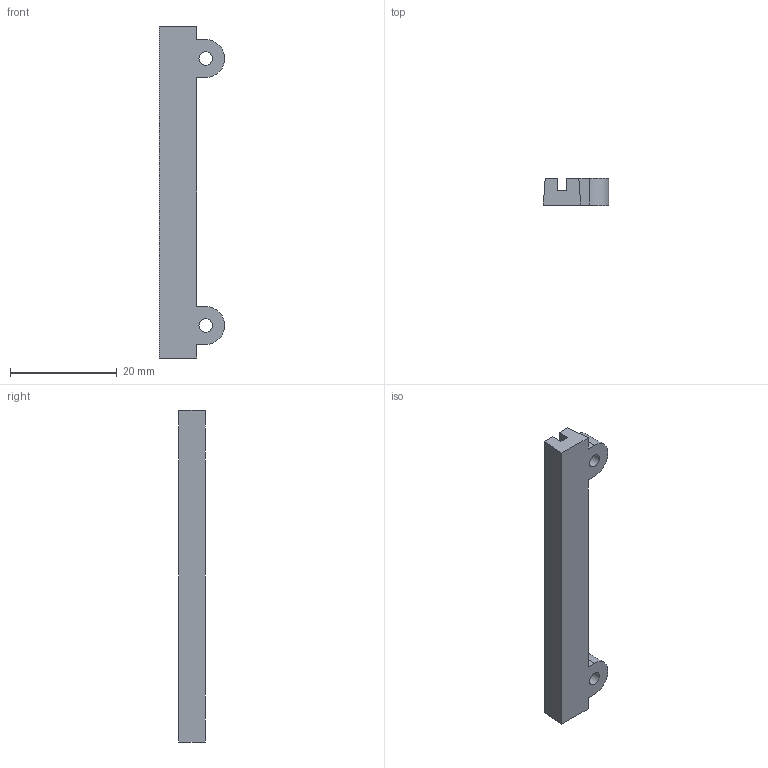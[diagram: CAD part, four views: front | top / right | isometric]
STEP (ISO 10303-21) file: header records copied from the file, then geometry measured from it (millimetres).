
FILE_DESCRIPTION(/* description */ ('Führungsschiene für Leiterplatte','CAx-IF Rec.Pracs.---Representation and Presentation of Product Manufacturing Information (PMI)---4.0---2014-10-13'),/* implementation_level */ '2;1');
FILE_NAME(/* name */ 'G:\Alle CAD Daten\CAMTEC_2020_Pack and Go\PSU CPS-i3000 - CPS-i2000\2530386.stp',/* time_stamp */ '2020-09-20T20:08:25+02:00',/* author */ ('rryba'),/* organization */ (''),/* preprocessor_version */ 'ST-DEVELOPER v18.1',/* originating_system */ 'Autodesk Inventor 2021',/* authorisation */ '');
FILE_SCHEMA (('AP242_MANAGED_MODEL_BASED_3D_ENGINEERING_MIM_LF { 1 0 10303 442 1 1 4 }'));
Length unit declared in the file: millimetre
Products named in the file (1): 2530386
Bounding box: 12.25 x 5 x 62.2 mm (x, y, z)
Volume: 2000.8 mm3; surface area: 2109 mm2
Topology: 1 solids, 1 shells, 34 faces, 114 edges, 105 vertices
Faces by surface type: plane 30, cylinder 4
Full cylindrical faces by diameter (mm): 2.55 x2
Entity records: 1223 total; most frequent: CARTESIAN_POINT 232, ORIENTED_EDGE 180, DIRECTION 174, EDGE_CURVE 90, LINE 82, VECTOR 82, VERTEX_POINT 60, AXIS2_PLACEMENT_3D 46
